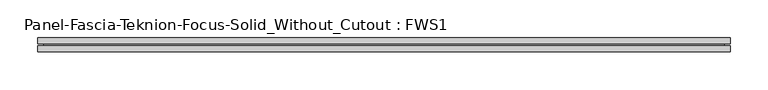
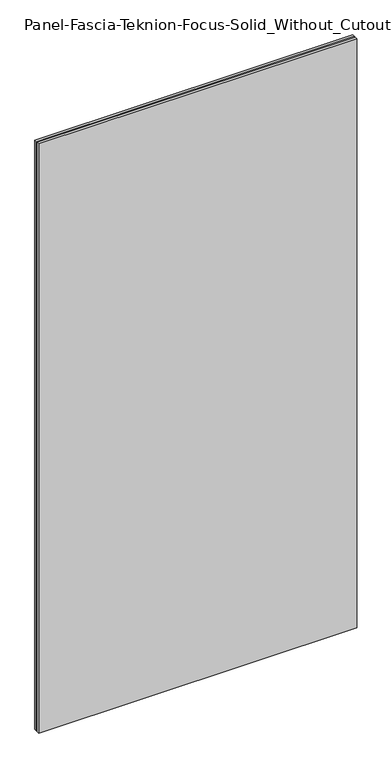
"""IFC4 building model written with IfcOpenShell, lengths in millimetres: proxy geometry, Panel-Fascia-Teknion-Focus-Solid_Without_Cutout : FWS1."""

from ifc_helpers import new_model, si_unit, origin, place, context, project, spatial, faceted_brep, source, transform, mapped, element, save


def panel_fascia_teknion_focus_solid_without_cutout_fws1_a7163688(model_context):
    return source(origin(), model_context, "Body", "Brep", [
        faceted_brep([(457.2, 9.25, 1791.217742), (-457.2, 9.25, 1791.217742), (-457.2, 1.5, 1791.217742), (457.2, 1.5, 1791.217742), (457.2, -1.5, 1791.217742), (-457.2, -1.5, 1791.217742), (-457.2, -9.25, 1791.217742), (457.2, -9.25, 1791.217742), (457.2, 9.25, 0.0), (457.2, 1.5, 0.0), (-457.2, 1.5, 0.0), (-457.2, 9.25, 0.0), (-457.2, -1.5, 0.0), (457.2, -1.5, 0.0), (457.2, -9.25, 0.0), (-457.2, -9.25, 0.0), (-449.2, 1.5, 1783.217742), (449.2, 1.5, 1783.217742), (449.2, 1.5, 8.0), (-449.2, 1.5, 8.0), (-449.2, -1.5, 8.0), (-449.2, -1.5, 1783.217742), (449.2, -1.5, 8.0), (449.2, -1.5, 1783.217742)], [[[0, 1, 2, 3]], [[4, 5, 6, 7]], [[8, 9, 10, 11]], [[12, 13, 14, 15]], [[1, 0, 8, 11]], [[6, 5, 12, 15]], [[7, 6, 15, 14]], [[13, 4, 7, 14]], [[10, 2, 1, 11]], [[3, 2, 10, 9], [16, 17, 18, 19]], [[16, 19, 20, 21]], [[5, 4, 13, 12], [20, 22, 23, 21]], [[23, 22, 18, 17]], [[0, 3, 9, 8]], [[21, 23, 17, 16]], [[22, 20, 19, 18]]]),
    ])


if __name__ == "__main__":
    model = new_model("IFC4")
    model_context = context("Model", 3, world=origin())
    ifc_project = project(units=[si_unit("LENGTHUNIT", "METRE", prefix="MILLI")], contexts=[model_context])
    site = spatial("IfcSite", under=ifc_project)
    building = spatial("IfcBuilding", under=site)
    placement = place(None, origin())
    panel_fascia_teknion_focus_solid_without_cutout_fws1_shape = panel_fascia_teknion_focus_solid_without_cutout_fws1_a7163688(model_context)
    element("IfcBuildingElementProxy", 1, Name="Panel-Fascia-Teknion-Focus-Solid_Without_Cutout : FWS1", ObjectType="Panel-Fascia-Teknion-Focus-Solid_Without_Cutout : FWS1", at=placement, inside=building, context=model_context, shape_type="MappedRepresentation", body=[
        mapped(panel_fascia_teknion_focus_solid_without_cutout_fws1_shape, transform((0.0, 0.0, 0.0), x_axis=(1.0, 0.0, 0.0), y_axis=(0.0, 1.0, 0.0), z_axis=(0.0, 0.0, 1.0))),
    ])
    save(model, "model.ifc")
